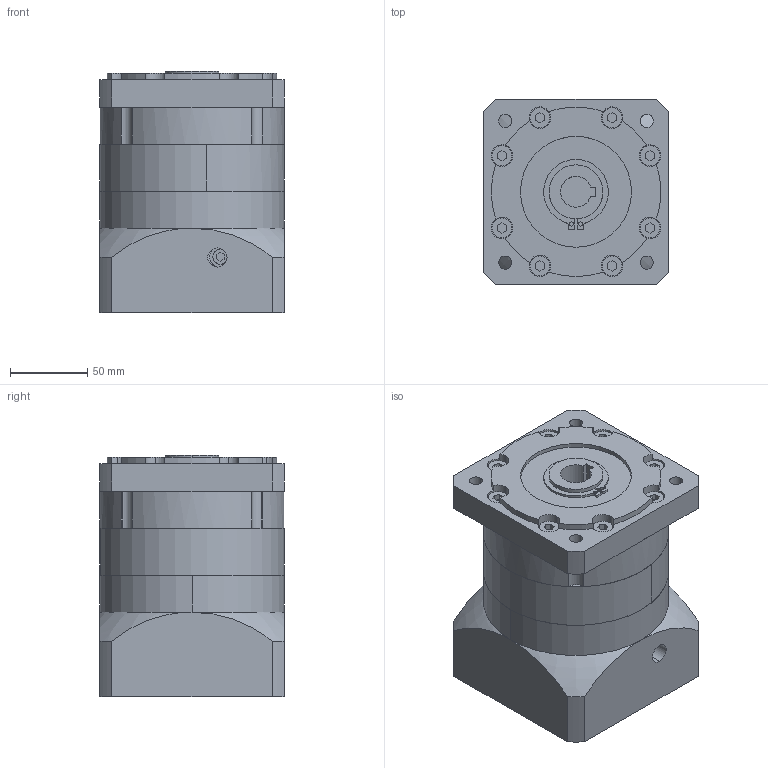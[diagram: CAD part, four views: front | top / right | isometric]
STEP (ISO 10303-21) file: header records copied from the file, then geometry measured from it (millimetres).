
FILE_DESCRIPTION (( 'STEP AP203' ), '1' );
FILE_NAME ('PLB120-L1-24-110-145.STEP', '2022-07-21T09:37:15', ( 'Windows User' ), ( 'P R C' ), 'SwSTEP 2.0', 'SolidWorks 2016', '' );
FILE_SCHEMA (( 'CONFIG_CONTROL_DESIGN' ));
Length unit declared in the file: millimetre
Products named in the file (7): 囀鞠褒蹟佪 M6x20; PBF120 蟀諉啣-LR62.5; PBF120 κｳﾝﾈｦ-ﾓﾅｻｯ_ﾒｻｼｶﾄﾚｳﾝﾈｦ; PBF120 奻屳唳-謂怀堤-20-B6; PBF120 狟屳唳-24; 粣創-6007 40x68x15; PLB120-L1-24-110-145
Assembly tree (6 placements, depth 2):
  PLB120-L1-24-110-145
    囀鞠褒蹟佪 M6x20
    PBF120 蟀諉啣-LR62.5
    PBF120 κｳﾝﾈｦ-ﾓﾅｻｯ_ﾒｻｼｶﾄﾚｳﾝﾈｦ
    PBF120 奻屳唳-謂怀堤-20-B6
    PBF120 狟屳唳-24
    粣創-6007 40x68x15
Bounding box: 120 x 120 x 157 mm (x, y, z)
Volume: 1695995 mm3; surface area: 237572.2 mm2
Topology: 6 solids, 14 shells, 1129 faces, 3031 edges, 2003 vertices
Faces by surface type: plane 639, cylinder 210, bspline 124, sphere 94, torus 52, cone 10
Entity records: 45092 total; most frequent: CARTESIAN_POINT 16909, ORIENTED_EDGE 6034, DIRECTION 5211, EDGE_CURVE 3017, VERTEX_POINT 1999, AXIS2_PLACEMENT_3D 1828, VECTOR 1555, LINE 1555
